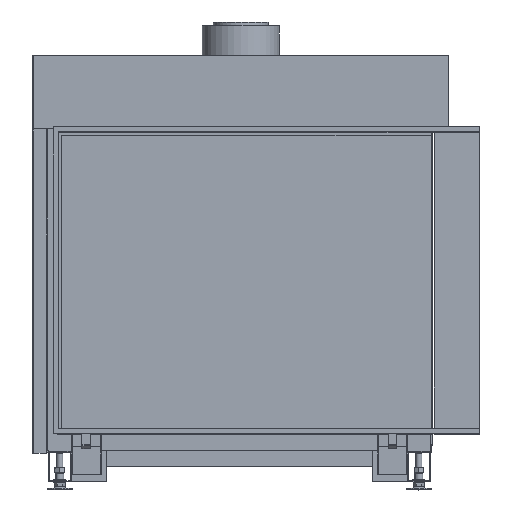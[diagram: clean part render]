
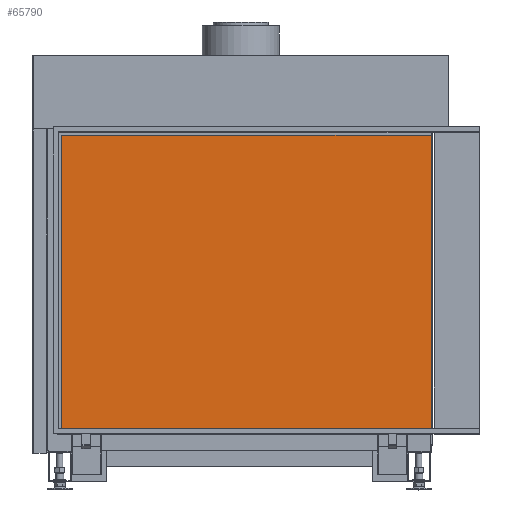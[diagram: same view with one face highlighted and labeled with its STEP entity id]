
A CAD part, top view. The second image highlights one B-rep face of the part: STEP entity #65790.
In plain terms, the highlighted planar face has unit normal (0, 0, 1).
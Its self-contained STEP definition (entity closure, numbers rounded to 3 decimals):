
#64680=CARTESIAN_POINT('',(1624.884,-10.9,
442.196));
#64690=VERTEX_POINT('',#64680);
#64720=CARTESIAN_POINT('',(1738.,-10.9,442.196));
#64730=DIRECTION('',(1.,0.,0.));
#64740=VECTOR('',#64730,1.);
#64750=LINE('',#64720,#64740);
#64760=CARTESIAN_POINT('',(2368.884,-10.9,
442.196));
#64770=VERTEX_POINT('',#64760);
#64780=EDGE_CURVE('',#64690,#64770,#64750,.T.);
#64940=CARTESIAN_POINT('',(1738.,590.6,442.196));
#64950=DIRECTION('',(-1.,0.,0.));
#64960=VECTOR('',#64950,1.);
#64970=LINE('',#64940,#64960);
#64980=CARTESIAN_POINT('',(2368.884,590.6,442.196));
#64990=VERTEX_POINT('',#64980);
#65000=CARTESIAN_POINT('',(1624.884,590.6,442.196));
#65010=VERTEX_POINT('',#65000);
#65020=EDGE_CURVE('',#64990,#65010,#64970,.T.);
#65470=CARTESIAN_POINT('',(1624.884,5.75,442.196));
#65480=DIRECTION('',(0.,-1.,0.));
#65490=VECTOR('',#65480,1.);
#65500=LINE('',#65470,#65490);
#65510=EDGE_CURVE('',#65010,#64690,#65500,.T.);
#65630=CARTESIAN_POINT('',(1738.,5.75,442.196));
#65640=DIRECTION('',(0.,0.,1.));
#65650=DIRECTION('',(1.,0.,0.));
#65660=AXIS2_PLACEMENT_3D('',#65630,#65640,#65650);
#65670=PLANE('',#65660);
#65680=ORIENTED_EDGE('',*,*,#64780,.T.);
#65690=ORIENTED_EDGE('',*,*,#65510,.T.);
#65700=ORIENTED_EDGE('',*,*,#65020,.T.);
#65710=CARTESIAN_POINT('',(2368.884,5.75,442.196));
#65720=DIRECTION('',(0.,-1.,0.));
#65730=VECTOR('',#65720,1.);
#65740=LINE('',#65710,#65730);
#65750=EDGE_CURVE('',#64990,#64770,#65740,.T.);
#65760=ORIENTED_EDGE('',*,*,#65750,.F.);
#65770=EDGE_LOOP('',(#65760,#65700,#65690,#65680));
#65780=FACE_OUTER_BOUND('',#65770,.T.);
#65790=ADVANCED_FACE('',(#65780),#65670,.T.);
